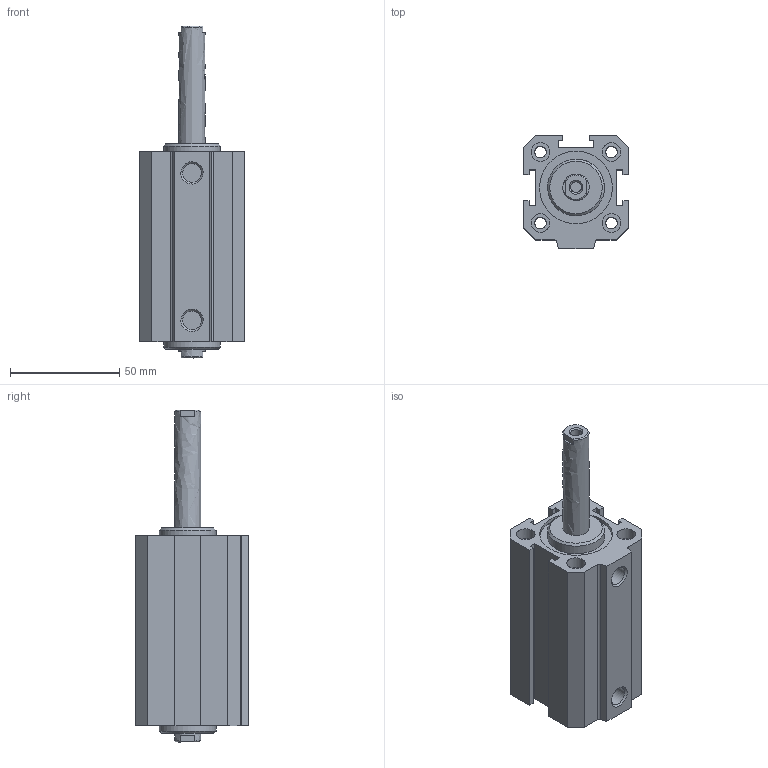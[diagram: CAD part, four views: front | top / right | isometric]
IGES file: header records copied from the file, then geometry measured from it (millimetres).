
Global section: file name: 1514_32_0050; native system: Autodesk Inventor 2014; preprocessor: unknown; author: A. Manieri; date: 20160824.113334; units: millimetre
Bounding box: 48 x 52 x 152 mm (x, y, z)
Volume: 144236.5 mm3; surface area: 50186.3 mm2
Topology: 2 solids, 2 shells, 106 faces, 276 edges, 194 vertices
Faces by surface type: bspline 106
